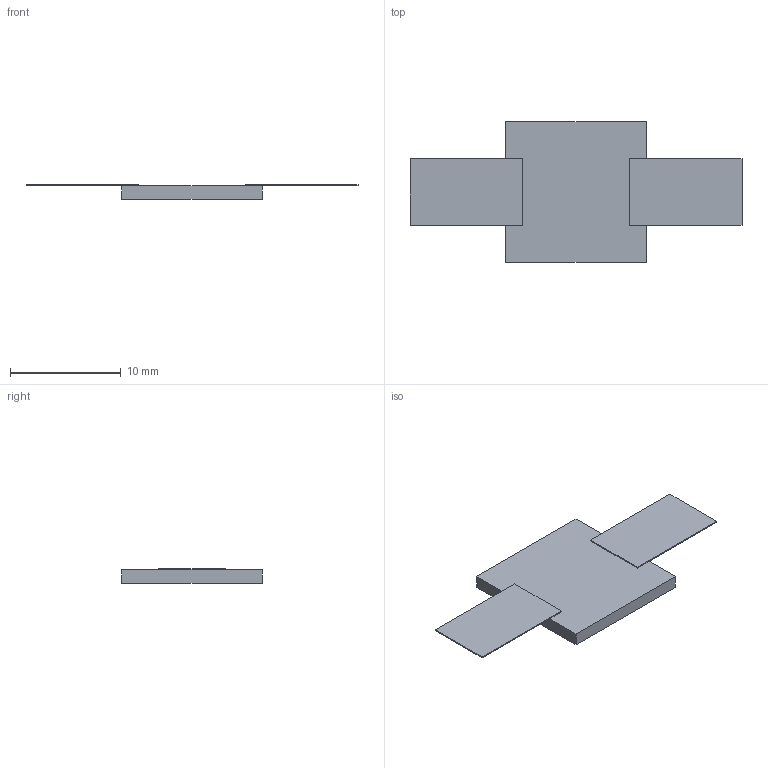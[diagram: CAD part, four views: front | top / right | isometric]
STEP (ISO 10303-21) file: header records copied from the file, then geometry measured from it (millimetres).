
FILE_DESCRIPTION(('STEP AP203'), '1');
FILE_NAME('Ð1-17-250-1', '', ('UNSPECIFIED'), ('UNSPECIFIED'), 'ASCON STEP Converter 1.6', 'ASCON Math Kernel', '');
FILE_SCHEMA(('CONFIG_CONTROL_DESIGN'));
Length unit declared in the file: millimetre
Bounding box: 30 x 12.7 x 1.3 mm (x, y, z)
Volume: 205.7 mm3; surface area: 607 mm2
Topology: 1 solids, 2 shells, 37 faces, 95 edges, 62 vertices
Faces by surface type: plane 33, cylinder 4
Entity records: 1447 total; most frequent: CARTESIAN_POINT 195, ORIENTED_EDGE 190, DIRECTION 179, EDGE_CURVE 95, LINE 87, VECTOR 87, VERTEX_POINT 62, AXIS2_PLACEMENT_3D 46
